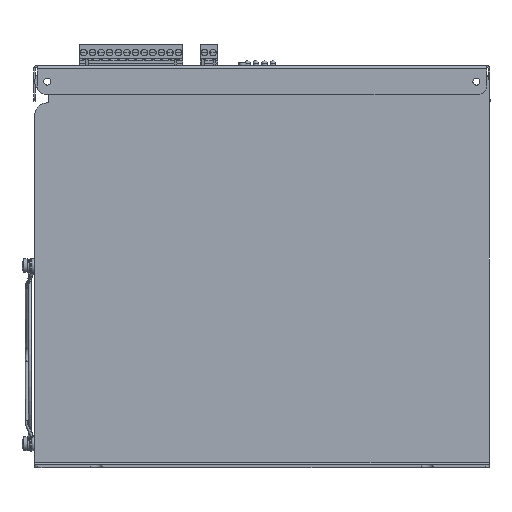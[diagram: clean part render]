
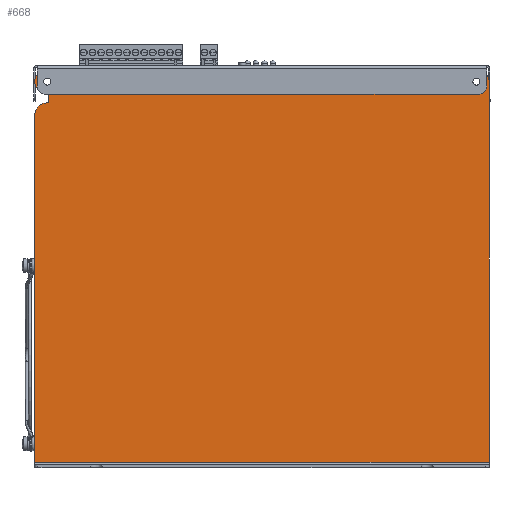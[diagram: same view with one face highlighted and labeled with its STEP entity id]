
A CAD part, left-side view. The second image highlights one B-rep face of the part: STEP entity #668.
In plain terms, the highlighted planar face has unit normal (-1, 0, 0).
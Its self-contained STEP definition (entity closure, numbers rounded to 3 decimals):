
#668=ADVANCED_FACE('',(#13809,#13811,#13813),#13815,.F.);
#13809=FACE_BOUND('',#13810,.T.);
#13810=EDGE_LOOP('',(#69711,#69712,#69713,#69714,#69715,#69716,#69717,#69718,#69719,
#69720));
#13811=FACE_BOUND('',#13812,.T.);
#13812=EDGE_LOOP('',(#69721));
#13813=FACE_BOUND('',#13814,.T.);
#13814=EDGE_LOOP('',(#69722));
#13815=PLANE('',#13816);
#13816=AXIS2_PLACEMENT_3D('',#13817,#13818,#13819);
#13817=CARTESIAN_POINT('',(-59.852,12.642,60.711));
#13818=DIRECTION('',(1.,0.,0.));
#13819=DIRECTION('',(0.,1.,0.));
#69711=ORIENTED_EDGE('',*,*,#98618,.T.);
#69712=ORIENTED_EDGE('',*,*,#97671,.F.);
#69713=ORIENTED_EDGE('',*,*,#98617,.F.);
#69714=ORIENTED_EDGE('',*,*,#98619,.F.);
#69715=ORIENTED_EDGE('',*,*,#98620,.F.);
#69716=ORIENTED_EDGE('',*,*,#98621,.T.);
#69717=ORIENTED_EDGE('',*,*,#98622,.T.);
#69718=ORIENTED_EDGE('',*,*,#98623,.T.);
#69719=ORIENTED_EDGE('',*,*,#98624,.F.);
#69720=ORIENTED_EDGE('',*,*,#98625,.F.);
#69721=ORIENTED_EDGE('',*,*,#98626,.T.);
#69722=ORIENTED_EDGE('',*,*,#98627,.T.);
#97671=EDGE_CURVE('',#110378,#110106,#110380,.T.);
#98617=EDGE_CURVE('',#112093,#110378,#112095,.F.);
#98618=EDGE_CURVE('',#112096,#110106,#112097,.T.);
#98619=EDGE_CURVE('',#112098,#112093,#112099,.T.);
#98620=EDGE_CURVE('',#112100,#112098,#112101,.F.);
#98621=EDGE_CURVE('',#112100,#112102,#112103,.T.);
#98622=EDGE_CURVE('',#112102,#112104,#112105,.T.);
#98623=EDGE_CURVE('',#112104,#112106,#112107,.T.);
#98624=EDGE_CURVE('',#112108,#112106,#112109,.F.);
#98625=EDGE_CURVE('',#112096,#112108,#112110,.T.);
#98626=EDGE_CURVE('',#112111,#112111,#112112,.T.);
#98627=EDGE_CURVE('',#112113,#112113,#112114,.T.);
#110106=VERTEX_POINT('',#130643);
#110378=VERTEX_POINT('',#131252);
#110380=LINE('',#131256,#131257);
#112093=VERTEX_POINT('',#135188);
#112095=CIRCLE('',#135192,7.5);
#112096=VERTEX_POINT('',#135196);
#112097=LINE('',#135197,#135198);
#112098=VERTEX_POINT('',#135200);
#112099=LINE('',#135201,#135202);
#112100=VERTEX_POINT('',#135204);
#112101=CIRCLE('',#135205,7.5);
#112102=VERTEX_POINT('',#135209);
#112103=LINE('',#135210,#135211);
#112104=VERTEX_POINT('',#135213);
#112105=LINE('',#135214,#135215);
#112106=VERTEX_POINT('',#135217);
#112107=LINE('',#135218,#135219);
#112108=VERTEX_POINT('',#135221);
#112109=CIRCLE('',#135222,7.5);
#112110=LINE('',#135226,#135227);
#112111=VERTEX_POINT('',#135229);
#112112=CIRCLE('',#135230,3.05);
#112113=VERTEX_POINT('',#135234);
#112114=CIRCLE('',#135235,3.05);
#130643=CARTESIAN_POINT('',(-59.852,-121.358,-53.789));
#131252=CARTESIAN_POINT('',(-59.852,-121.358,170.711));
#131256=CARTESIAN_POINT('',(-59.852,-121.358,170.711));
#131257=VECTOR('',#131258,1.);
#131258=DIRECTION('',(0.,0.,-1.));
#135188=CARTESIAN_POINT('',(-59.852,-113.858,178.211));
#135192=AXIS2_PLACEMENT_3D('',#135193,#135194,#135195);
#135193=CARTESIAN_POINT('',(-59.852,-113.858,170.711));
#135194=DIRECTION('',(-1.,0.,0.));
#135195=DIRECTION('',(0.,-1.,0.));
#135196=CARTESIAN_POINT('',(-59.852,146.642,-53.789));
#135197=CARTESIAN_POINT('',(-59.852,146.642,-53.789));
#135198=VECTOR('',#135199,1.);
#135199=DIRECTION('',(0.,-1.,0.));
#135200=CARTESIAN_POINT('',(-59.852,139.142,178.211));
#135201=CARTESIAN_POINT('',(-59.852,139.142,178.211));
#135202=VECTOR('',#135203,1.);
#135203=DIRECTION('',(0.,-1.,0.));
#135204=CARTESIAN_POINT('',(-59.852,139.142,163.211));
#135205=AXIS2_PLACEMENT_3D('',#135206,#135207,#135208);
#135206=CARTESIAN_POINT('',(-59.852,139.142,170.711));
#135207=DIRECTION('',(-1.,0.,0.));
#135208=DIRECTION('',(0.,0.,1.));
#135209=CARTESIAN_POINT('',(-59.852,138.142,163.211));
#135210=CARTESIAN_POINT('',(-59.852,139.142,163.211));
#135211=VECTOR('',#135212,1.);
#135212=DIRECTION('',(0.,-1.,0.));
#135213=CARTESIAN_POINT('',(-59.852,138.142,158.211));
#135214=CARTESIAN_POINT('',(-59.852,138.142,163.211));
#135215=VECTOR('',#135216,1.);
#135216=DIRECTION('',(0.,0.,-1.));
#135217=CARTESIAN_POINT('',(-59.852,139.142,158.211));
#135218=CARTESIAN_POINT('',(-59.852,138.142,158.211));
#135219=VECTOR('',#135220,1.);
#135220=DIRECTION('',(0.,1.,0.));
#135221=CARTESIAN_POINT('',(-59.852,146.642,150.711));
#135222=AXIS2_PLACEMENT_3D('',#135223,#135224,#135225);
#135223=CARTESIAN_POINT('',(-59.852,139.142,150.711));
#135224=DIRECTION('',(-1.,0.,0.));
#135225=DIRECTION('',(0.,0.,1.));
#135226=CARTESIAN_POINT('',(-59.852,146.642,-53.789));
#135227=VECTOR('',#135228,1.);
#135228=DIRECTION('',(0.,0.,1.));
#135229=CARTESIAN_POINT('',(-59.852,142.192,170.711));
#135230=AXIS2_PLACEMENT_3D('',#135231,#135232,#135233);
#135231=CARTESIAN_POINT('',(-59.852,139.142,170.711));
#135232=DIRECTION('',(1.,0.,0.));
#135233=DIRECTION('',(0.,1.,0.));
#135234=CARTESIAN_POINT('',(-59.852,-110.808,170.711));
#135235=AXIS2_PLACEMENT_3D('',#135236,#135237,#135238);
#135236=CARTESIAN_POINT('',(-59.852,-113.858,170.711));
#135237=DIRECTION('',(1.,0.,0.));
#135238=DIRECTION('',(0.,1.,0.));
